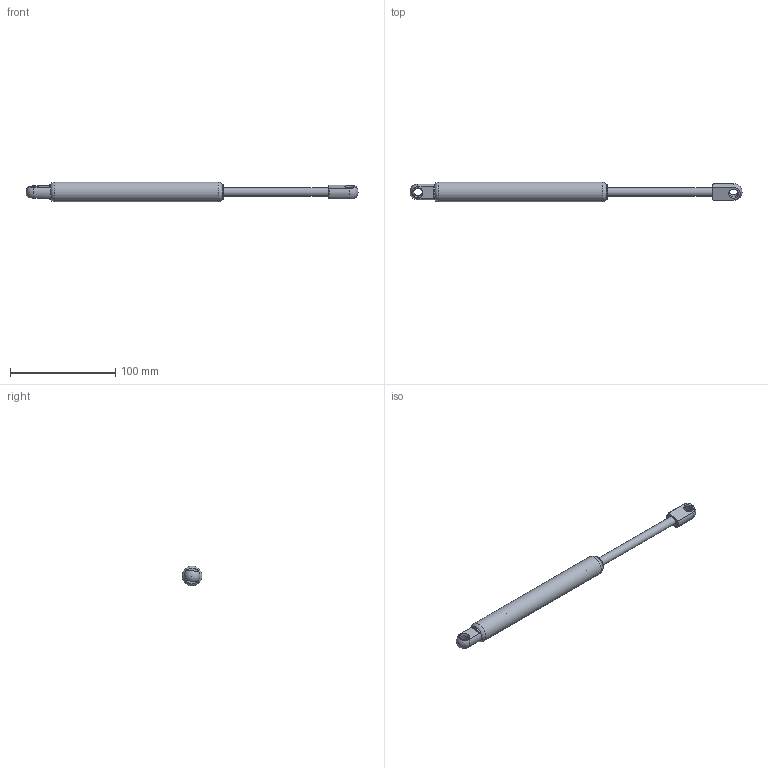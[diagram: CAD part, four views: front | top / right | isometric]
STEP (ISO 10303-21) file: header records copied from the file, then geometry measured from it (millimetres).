
FILE_DESCRIPTION(/* description */ ('STEP AP214'),/* implementation_level */ '2;1');
FILE_NAME(/* name */ 'C:\Users\marco.dallariva\Desktop\Molle a Gas\A1A140100300.100.stp',/* time_stamp */ '2022-06-13T15:22:43+02:00',/* author */ ('marco.dallariva'),/* organization */ ('CADENAS'),/* preprocessor_version */ 'ST-DEVELOPER v18.1',/* originating_system */ 'Autodesk Inventor 2021',/* authorisation */ ' ');
FILE_SCHEMA (('AUTOMOTIVE_DESIGN { 1 0 10303 214 3 1 1 }'));
Length unit declared in the file: millimetre
Products named in the file (5): A1A140100300.100; _-8_19(100717A1); _A1-8_19(100717); _A18AK; _A119AZ
Assembly tree (4 placements, depth 2):
  A1A140100300.100
    _-8_19(100717A1)
    _A1-8_19(100717)
    _A18AK
    _A119AZ
Bounding box: 315.5 x 19 x 19 mm (x, y, z)
Volume: 33760.8 mm3; surface area: 24519.8 mm2
Topology: 4 solids, 4 shells, 46 faces, 95 edges, 62 vertices
Faces by surface type: plane 19, cylinder 14, cone 8, torus 3, sphere 2
Full cylindrical faces by diameter (mm): 6.647 x1, 8 x2, 8.2 x3, 15 x1, 15.1 x1, 17.1 x3, 19 x1
Entity records: 1471 total; most frequent: DIRECTION 256, CARTESIAN_POINT 217, ORIENTED_EDGE 184, AXIS2_PLACEMENT_3D 113, EDGE_CURVE 92, VERTEX_POINT 62, EDGE_LOOP 58, CIRCLE 58
